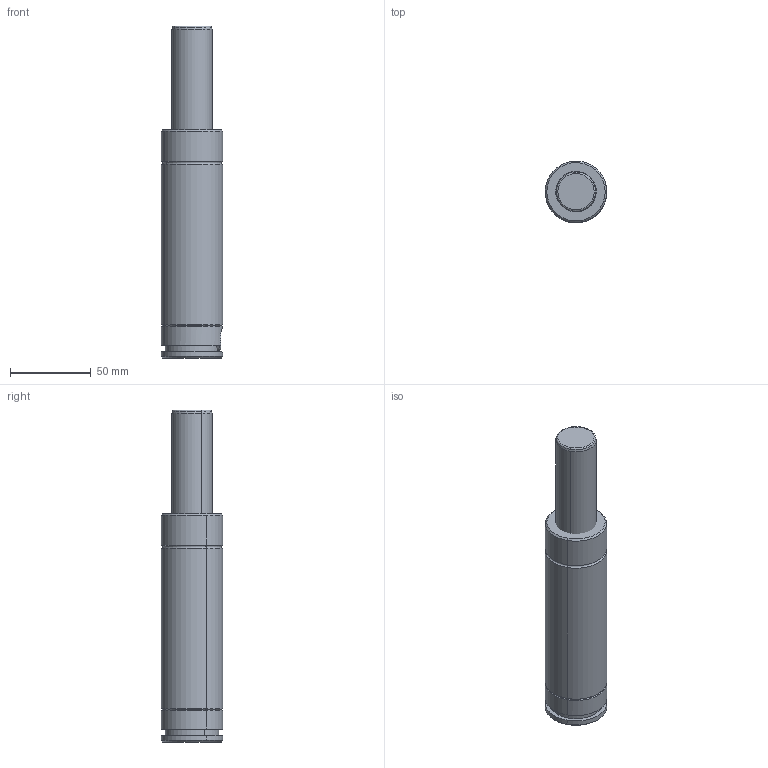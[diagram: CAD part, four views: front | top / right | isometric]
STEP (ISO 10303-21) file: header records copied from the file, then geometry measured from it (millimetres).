
FILE_DESCRIPTION(('CATIA V5 STEP Exchange'),'2;1');
FILE_NAME('W:\CATALOGO GENERAL 2018\FICHEROS CAD\003-TPH\TPH 850C\TPH 850x63C.stp','2017-10-30T10:38:25+00:00',('none'),('none'),'CATIA Version 5 Release 17 (IN-10)','CATIA V5 STEP AP203','none');
FILE_SCHEMA(('CONFIG_CONTROL_DESIGN'));
Length unit declared in the file: millimetre
Products named in the file (1): TPH 850x63C
Assembly tree (4 placements, depth 2):
  TPH 850x63C
    #56
    #969
    #1402
    #1744
Bounding box: 37.99 x 37.99 x 205 mm (x, y, z)
Volume: 203071.2 mm3; surface area: 31793 mm2
Topology: 4 solids, 4 shells, 139 faces, 294 edges, 176 vertices
Faces by surface type: cone 44, torus 36, cylinder 33, plane 26
Entity records: 3483 total; most frequent: CARTESIAN_POINT 646, ORIENTED_EDGE 572, DIRECTION 478, AXIS2_PLACEMENT_3D 287, EDGE_CURVE 286, CIRCLE 188, VERTEX_POINT 164, EDGE_LOOP 148
